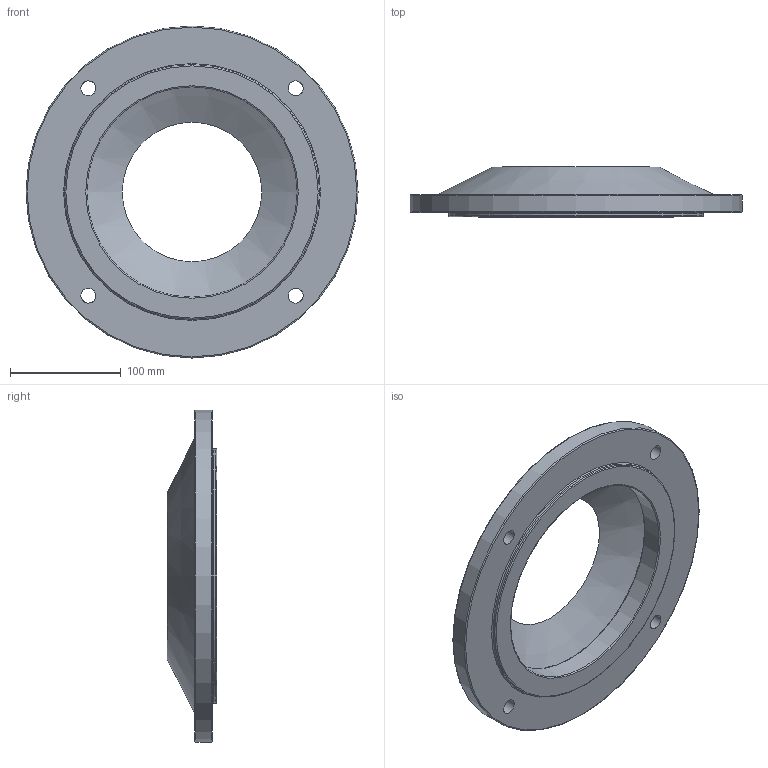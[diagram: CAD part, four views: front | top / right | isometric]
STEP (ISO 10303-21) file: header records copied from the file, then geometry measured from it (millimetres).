
FILE_DESCRIPTION((''),'2;1');
FILE_NAME('D:\PAWEŁ\ZLECENIA\DualSystem\001 Modele\DKAB70_\DK_70-_STEP\AF_F_70.stp','2011-11-25T00:43:37',('Pawe'),(''),'Autodesk Inventor 2009','Autodesk Inventor 2009','');
FILE_SCHEMA(('AUTOMOTIVE_DESIGN { 1 0 10303 214 1 1 1 1 }'));
Length unit declared in the file: millimetre
Products named in the file (1): AF_F_70
Bounding box: 300 x 45 x 300 mm (x, y, z)
Volume: 897502.1 mm3; surface area: 176438.5 mm2
Topology: 1 solids, 1 shells, 21 faces, 53 edges, 33 vertices
Faces by surface type: bspline 6, plane 5, torus 5, cylinder 3, cone 2
Full cylindrical faces by diameter (mm): 190 x1, 230 x1, 300 x1
Entity records: 718 total; most frequent: CARTESIAN_POINT 272, DIRECTION 88, ORIENTED_EDGE 64, EDGE_LOOP 46, AXIS2_PLACEMENT_3D 44, EDGE_CURVE 32, VERTEX_POINT 28, CIRCLE 28
